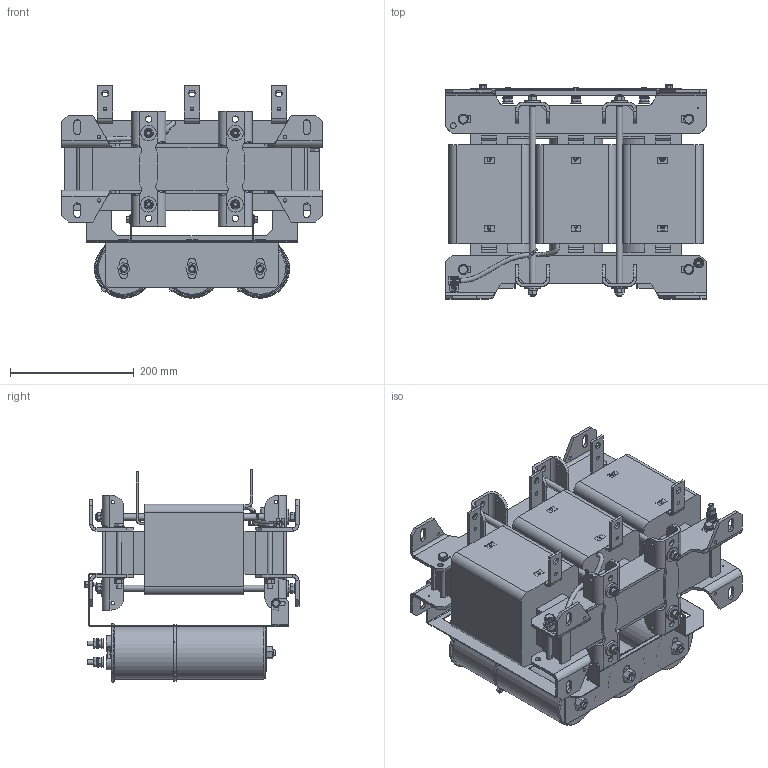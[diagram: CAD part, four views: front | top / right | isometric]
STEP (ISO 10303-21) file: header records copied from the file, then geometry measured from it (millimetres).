
FILE_DESCRIPTION(/* description */ (''),/* implementation_level */ '2;1');
FILE_NAME(/* name */ 'C:\Users\Erika.Jenzer\Desktop\CO20007647\Step Files\FN5420-180-99-E0XXT.stp',/* time_stamp */ '2021-03-02T09:36:07+01:00',/* author */ ('erika.jenzer'),/* organization */ (''),/* preprocessor_version */ 'ST-DEVELOPER v18.1',/* originating_system */ 'Autodesk Inventor 2020',/* authorisation */ '');
FILE_SCHEMA (('AUTOMOTIVE_DESIGN { 1 0 10303 214 3 1 1 }'));
Length unit declared in the file: millimetre
Products named in the file (1): FN5420-180-99-E0XXT
Bounding box: 420 x 345.35 x 342.67 mm (x, y, z)
Volume: 17304992.4 mm3; surface area: 1364033.3 mm2
Topology: 16 solids, 16 shells, 2398 faces, 6662 edges, 4410 vertices
Faces by surface type: plane 1559, cylinder 593, cone 139, bspline 78, torus 16, sphere 13
Full cylindrical faces by diameter (mm): 0.003 x3, 1 x1, 2.013 x4, 2.3 x2, 2.5 x1, 2.8 x5, 3.4 x4, 5.5 x26, 6 x8, 8 x41, 8.2 x1, 8.4 x18, 8.6 x12, 9 x12, 9.5 x4, 10.2 x16, 10.5 x7, 11 x6, 11.4 x5, 11.5 x6, 12 x9, 12.5 x3, 13 x4, 16 x22, 22 x6, 24.7 x6, 25 x8, 86 x3
Entity records: 83910 total; most frequent: CARTESIAN_POINT 19614, ORIENTED_EDGE 13324, DIRECTION 12426, EDGE_CURVE 6662, VERTEX_POINT 4410, AXIS2_PLACEMENT_3D 4197, LINE 4032, VECTOR 4032
